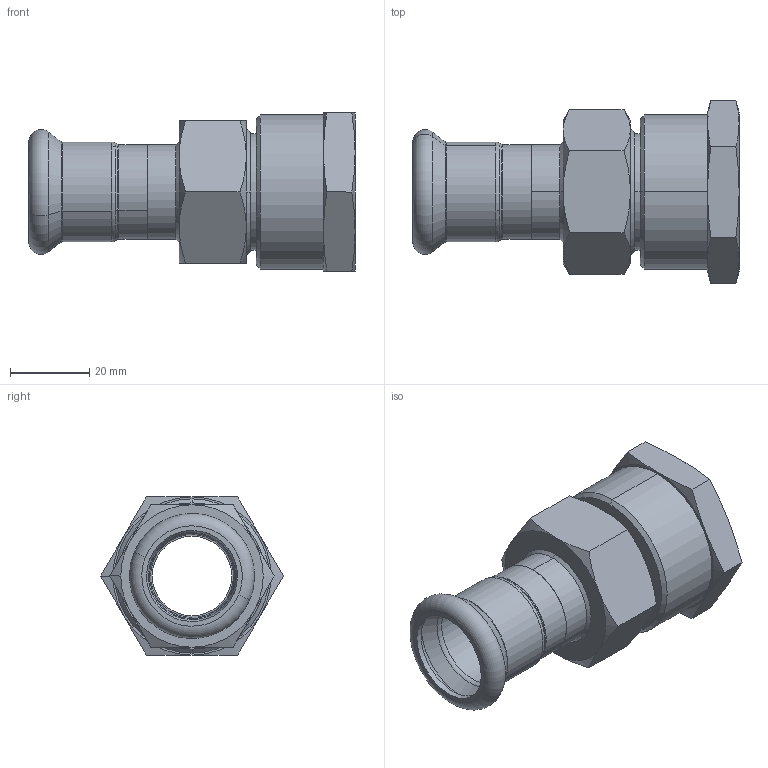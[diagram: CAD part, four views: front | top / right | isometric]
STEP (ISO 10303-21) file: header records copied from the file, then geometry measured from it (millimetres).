
FILE_DESCRIPTION (( 'STEP AP203' ), '1' );
FILE_NAME ('GDA5456.STEP', '2019-01-17T07:34:19', ( '' ), ( '' ), 'SwSTEP 2.0', 'SolidWorks 2015', '' );
FILE_SCHEMA (( 'CONFIG_CONTROL_DESIGN' ));
Length unit declared in the file: millimetre
Products named in the file (6): GDA5456; T-ｉ-01-22_1; 1_1; ZL-Ⅰ-01×1_2; 囀俋佪蛌遙諉芛1-1; 22｡ﾁ1_1
Assembly tree (5 placements, depth 2):
  GDA5456
    22｡ﾁ1_1
    T-ｉ-01-22_1
    ZL-Ⅰ-01×1_2
    囀俋佪蛌遙諉芛1-1
    1_1
Bounding box: 82.5 x 46.19 x 40 mm (x, y, z)
Volume: 33876.2 mm3; surface area: 23264.1 mm2
Topology: 5 solids, 5 shells, 131 faces, 278 edges, 164 vertices
Faces by surface type: cone 50, cylinder 36, plane 29, torus 16
Entity records: 4448 total; most frequent: CARTESIAN_POINT 960, DIRECTION 662, ORIENTED_EDGE 556, AXIS2_PLACEMENT_3D 294, EDGE_CURVE 278, VERTEX_POINT 164, CIRCLE 155, EDGE_LOOP 148
